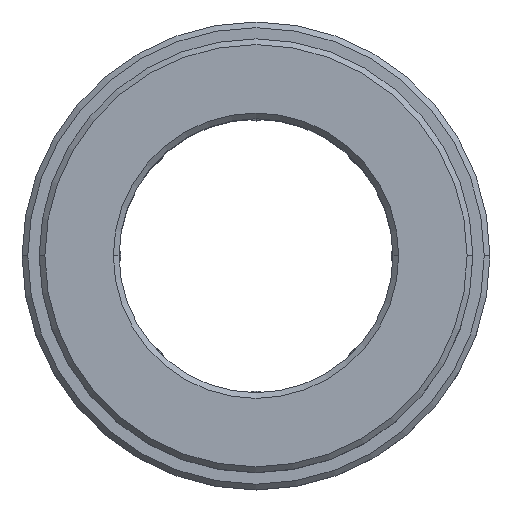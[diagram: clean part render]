
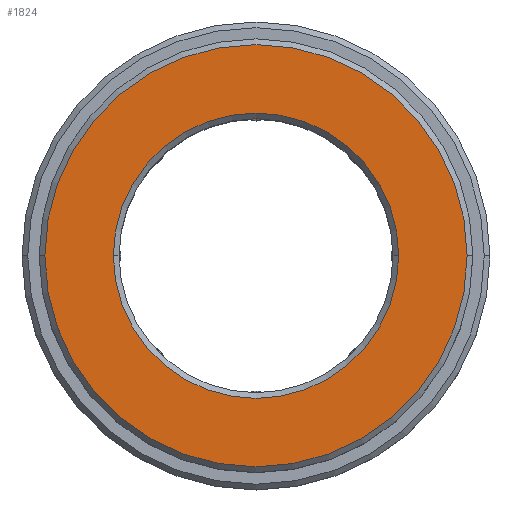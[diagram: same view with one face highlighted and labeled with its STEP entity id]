
A CAD part, top view. The second image highlights one B-rep face of the part: STEP entity #1824.
In plain terms, the highlighted planar face has unit normal (0, 0, 1).
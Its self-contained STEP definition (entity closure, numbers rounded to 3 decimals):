
#817=CARTESIAN_POINT('',(0.,0.,
17.));
#818=DIRECTION('',(0.,0.,-1.));
#819=DIRECTION('',(1.,0.,0.));
#820=AXIS2_PLACEMENT_3D('',#817,#818,#819);
#822=CARTESIAN_POINT('',(0.,0.,
17.));
#823=DIRECTION('',(0.,0.,-1.));
#824=DIRECTION('',(-1.,0.,0.));
#825=AXIS2_PLACEMENT_3D('',#822,#823,#824);
#827=CARTESIAN_POINT('',(0.,0.,
17.));
#828=DIRECTION('',(0.,0.,-1.));
#829=DIRECTION('',(-1.,0.,0.));
#830=AXIS2_PLACEMENT_3D('',#827,#828,#829);
#832=CARTESIAN_POINT('',(0.,0.,
17.));
#833=DIRECTION('',(0.,0.,-1.));
#834=DIRECTION('',(1.,0.,0.));
#835=AXIS2_PLACEMENT_3D('',#832,#833,#834);
#1113=CARTESIAN_POINT('',(18.5,0.,17.));
#1114=CARTESIAN_POINT('',(-18.5,0.,17.));
#1115=VERTEX_POINT('',#1113);
#1116=VERTEX_POINT('',#1114);
#1117=CARTESIAN_POINT('',(-12.5,0.,17.));
#1118=CARTESIAN_POINT('',(12.5,0.,17.));
#1119=VERTEX_POINT('',#1117);
#1120=VERTEX_POINT('',#1118);
#1808=CARTESIAN_POINT('',(0.,0.,17.));
#1809=DIRECTION('',(0.,0.,1.));
#1810=DIRECTION('',(-1.,0.,0.));
#1811=AXIS2_PLACEMENT_3D('',#1808,#1809,#1810);
#1812=PLANE('',#1811);
#1814=ORIENTED_EDGE('',*,*,#1813,.T.);
#1816=ORIENTED_EDGE('',*,*,#1815,.T.);
#1817=EDGE_LOOP('',(#1814,#1816));
#1818=FACE_OUTER_BOUND('',#1817,.F.);
#1820=ORIENTED_EDGE('',*,*,#1819,.F.);
#1821=ORIENTED_EDGE('',*,*,#1798,.F.);
#1822=EDGE_LOOP('',(#1820,#1821));
#1823=FACE_BOUND('',#1822,.F.);
#1824=ADVANCED_FACE('',(#1818,#1823),#1812,.T.);
#821=CIRCLE('',#820,18.5);
#826=CIRCLE('',#825,18.5);
#831=CIRCLE('',#830,12.5);
#836=CIRCLE('',#835,12.5);
#1798=EDGE_CURVE('',#1120,#1119,#836,.T.);
#1813=EDGE_CURVE('',#1115,#1116,#821,.T.);
#1815=EDGE_CURVE('',#1116,#1115,#826,.T.);
#1819=EDGE_CURVE('',#1119,#1120,#831,.T.);
